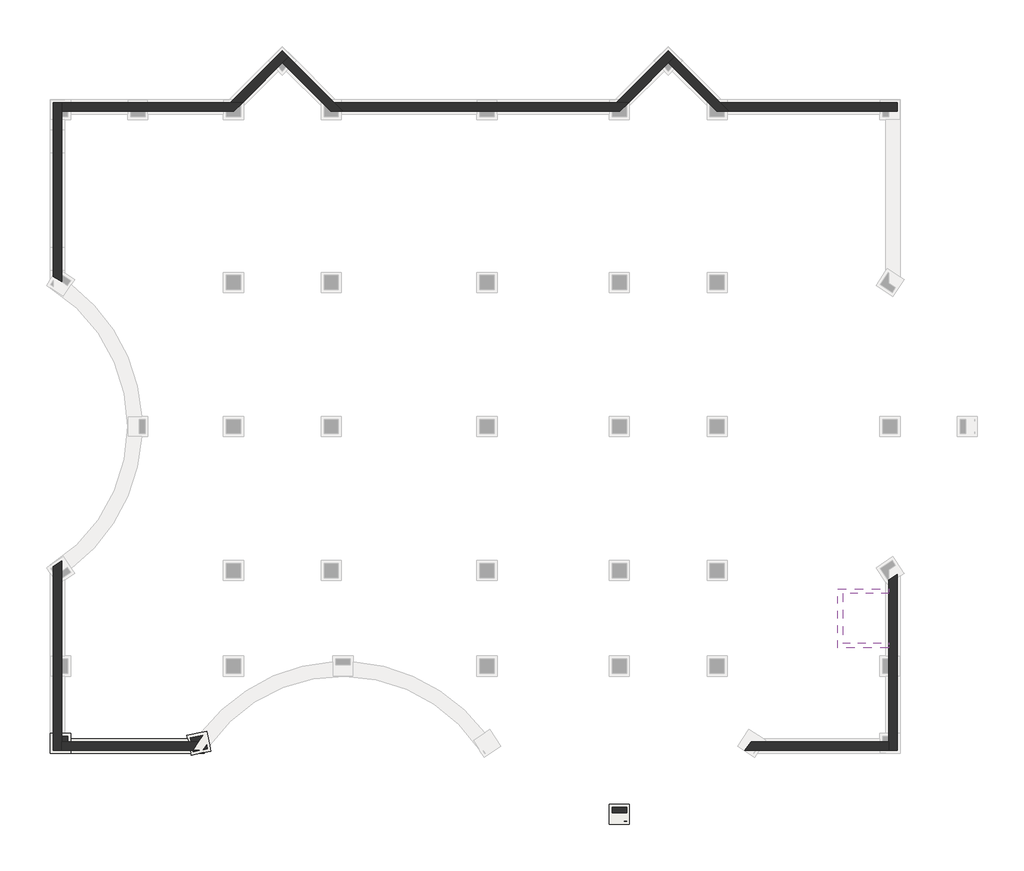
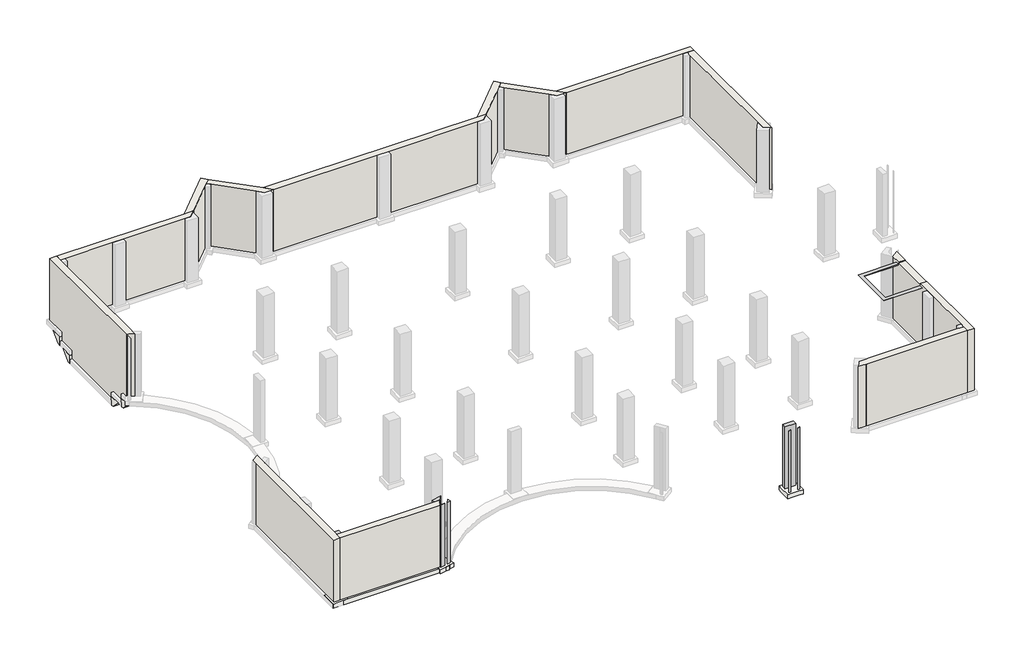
# One storey, part 1 of 3: 13 walls, 4 slabs, 3 columns, 1 footing, 1 proxy.
"""IFC4 building model written with IfcOpenShell, lengths in millimetres."""

from ifc_helpers import new_model, si_unit, point, frame, frame_2d, origin, place, context, project, spatial, polyline, circle_curve, trimmed, segment, composite_curve, outline, extrude, faceted_brep, transform, mapped, element, save
from ifc_brep_helpers import plane_surface, revolved_surface, advanced_brep
from components import west_stepped_footing_west_stepped_footing_b48c4903

model = new_model("IFC4")

# Units and contexts
model_context = context("Model", 3, world=origin())
ifc_project = project(units=[si_unit("LENGTHUNIT", "METRE", prefix="MILLI")], contexts=[model_context])

# Site, building, storey
site = spatial("IfcSite", under=ifc_project)
building = spatial("IfcBuilding", under=site)
storey = spatial("IfcBuildingStorey", under=building, Name="00 T.O.FOOTING", Elevation=-4572.0)

# Proxy
placement = place(None, origin())
element("IfcBuildingElementProxy", 1, Name="Mat Edge", ObjectType="Mat Edge", at=placement, inside=storey, context=model_context, shape_type="Brep", body=[
    faceted_brep([(43955.9050515, 5264.575, -200.0), (43955.9050515, 5464.575, -200.0), (43955.9050515, 5464.575, -150.0), (43955.9050515, 5214.575, -150.0), (41515.9050515, 5464.575, -200.0), (41515.9050515, 5464.575, -150.0), (41315.9050515, 5264.575, -200.0), (41265.9050515, 5214.575, -150.0), (41515.9050515, 8079.575, -200.0), (41515.9050515, 8079.575, -150.0), (41315.9050515, 8279.575, -200.0), (41265.9050515, 8329.575, -150.0), (43955.9050515, 8079.575, -200.0), (43955.9050515, 8279.575, -200.0), (43955.9050515, 8329.575, -150.0), (43955.9050515, 8079.575, -150.0)], [[[0, 1, 2, 3]], [[1, 4, 5, 2]], [[6, 0, 3, 7]], [[1, 0, 6, 4]], [[4, 8, 9, 5]], [[10, 6, 7, 11]], [[4, 6, 10, 8]], [[12, 13, 14, 15]], [[8, 12, 15, 9]], [[13, 10, 11, 14]], [[8, 10, 13, 12]], [[3, 2, 5, 9, 15, 14, 11, 7]]]),
])

# Columns
element("IfcColumn", 2, ObjectType="M_Concrete-Rectangular-Column : 762 x 762mm", at=placement, inside=storey, context=model_context, shape_type="SweptSolid", body=[
    extrude(outline(polyline([(228.5, 536.575), (536.575, 536.575), (536.575, 228.5), (228.5, 228.5), (228.5, 536.575)])), frame((0.0, 0.0, -4572.0), z_axis=(0.0, 0.0, 1.0), x_axis=(1.0, 0.0, 0.0)), (0.0, 0.0, 1.0), 4572.0),
])
element("IfcColumn", 3, ObjectType="M_Concrete-Rectangular-Column : 762 x 762mm", at=placement, inside=storey, context=model_context, shape_type="SweptSolid", body=[
    extrude(outline(composite_curve([segment(polyline([(30092.5468913, -3977.7548318), (30092.5465403, -3982.4534576), (29961.8550106, -3982.4436956)]), True, "CONTINUOUS"), segment(trimmed(circle_curve(frame_2d((29712.2025257, 4799.7966199)), 8785.7880309), [point((29961.8550106, -3982.4436956))], [point((30092.5468913, -3977.7548318))], True, "CARTESIAN"), True, "CONTINUOUS")], self_intersect=False)), frame((0.0, 0.0, -4572.0), z_axis=(0.0, 0.0, 1.0), x_axis=(1.0, 0.0, 0.0)), (0.0, 0.0, 1.0), 4572.0),
    extrude(outline(composite_curve([segment(polyline([(29330.6034597, -3220.3965424), (30092.6034576, -3220.4534597), (30092.5810606, -3520.3008695)]), True, "CONTINUOUS"), segment(trimmed(circle_curve(frame_2d((29712.2025257, 4799.7966199)), 8328.7880309), [point((30092.5810606, -3520.3008695))], [point((29330.5810627, -3520.2439522))], False, "CARTESIAN"), True, "CONTINUOUS"), segment(polyline([(29330.5810627, -3520.2439522), (29330.6034597, -3220.3965424)]), True, "CONTINUOUS")], self_intersect=False)), frame((0.0, 0.0, -4572.0), z_axis=(0.0, 0.0, 1.0), x_axis=(1.0, 0.0, 0.0)), (0.0, 0.0, 1.0), 4572.0),
    extrude(outline(composite_curve([segment(polyline([(29330.5465424, -3982.3965403), (29330.5468934, -3977.6979145)]), True, "CONTINUOUS"), segment(trimmed(circle_curve(frame_2d((29712.2025257, 4799.7966199)), 8785.7880309), [point((29330.5468934, -3977.6979145))], [point((29461.2380721, -3982.4063023))], True, "CARTESIAN"), True, "CONTINUOUS"), segment(polyline([(29461.2380721, -3982.4063023), (29330.5465424, -3982.3965403)]), True, "CONTINUOUS")], self_intersect=False)), frame((0.0, 0.0, -4572.0), z_axis=(0.0, 0.0, 1.0), x_axis=(1.0, 0.0, 0.0)), (0.0, 0.0, 1.0), 4572.0),
])
element("IfcColumn", 4, ObjectType="M_Concrete-Rectangular-Column : 762 x 762mm", at=placement, inside=storey, context=model_context, shape_type="SweptSolid", body=[
    extrude(outline(polyline([(7495.2019987, -228.5), (7175.4949163, -295.2572794), (7161.5554867, -228.5), (7495.2019987, -228.5)])), frame((0.0, 0.0, -4572.0), z_axis=(0.0, 0.0, 1.0), x_axis=(1.0, 0.0, 0.0)), (0.0, 0.0, 1.0), 4572.0),
    extrude(outline(composite_curve([segment(polyline([(7019.7427206, 450.6550837), (7686.4160603, 589.8615664)]), True, "CONTINUOUS"), segment(trimmed(circle_curve(frame_2d((15090.775, -4898.9611805)), 9216.925), [point((7686.4160603, 589.8615664))], [point((7431.7379654, 228.5))], True, "CARTESIAN"), True, "CONTINUOUS"), segment(polyline([(7431.7379654, 228.5), (7066.130398, 228.5), (7019.7427206, 450.6550837)]), True, "CONTINUOUS")], self_intersect=False)), frame((0.0, 0.0, -4572.0), z_axis=(0.0, 0.0, 1.0), x_axis=(1.0, 0.0, 0.0)), (0.0, 0.0, 1.0), 4572.0),
    extrude(outline(composite_curve([segment(polyline([(7877.3918187, 71.2892242), (7921.4072794, -139.5050837), (7707.946534, -184.0773169)]), True, "CONTINUOUS"), segment(trimmed(circle_curve(frame_2d((15090.775, -4898.9611805)), 8759.925), [point((7707.946534, -184.0773169))], [point((7877.3918187, 71.2892242))], False, "CARTESIAN"), True, "CONTINUOUS")], self_intersect=False)), frame((0.0, 0.0, -4572.0), z_axis=(0.0, 0.0, 1.0), x_axis=(1.0, 0.0, 0.0)), (0.0, 0.0, 1.0), 4572.0),
])

# Footing
element("IfcFooting", 5, ObjectType="Bearing Footing - 762 x 305", at=placement, inside=storey, context=model_context, shape_type="SweptSolid", body=[
    extrude(outline(polyline([(381.0, -381.0), (381.0, -377.925), (689.075, -377.925), (689.075, 381.0), (6878.4981549, 381.0), (7037.609572, -381.0), (381.0, -381.0)])), frame((0.0, 0.0, -4877.0), z_axis=(0.0, 0.0, 1.0), x_axis=(1.0, 0.0, 0.0)), (0.0, 0.0, 1.0), 305.0),
    extrude(outline(polyline([(7738.5947592, -333.4668124), (7764.398549, -381.0), (7510.9537164, -381.0), (7738.5947592, -333.4668124)])), frame((0.0, 0.0, -4877.0), z_axis=(0.0, 0.0, 1.0), x_axis=(1.0, 0.0, 0.0)), (0.0, 0.0, 1.0), 305.0),
])

# Slabs
element("IfcSlab", 6, ObjectType="M_Footing-Rectangular : 1067 x 1067 x 305mm", at=placement, inside=storey, context=model_context, shape_type="Brep", body=[
    faceted_brep([(689.075, 689.075, -4572.0), (381.0, 689.075, -4572.0), (-377.925, 689.075, -4572.0), (-377.925, -377.925, -4572.0), (381.0, -377.925, -4572.0), (689.075, -377.925, -4572.0), (689.075, 381.0, -4572.0), (689.075, 689.075, -4877.0), (689.075, 381.0, -4877.0), (689.075, -377.925, -4877.0), (381.0, -377.925, -4877.0), (-377.925, -377.925, -4877.0), (-377.925, 689.075, -4877.0), (381.0, 689.075, -4877.0)], [[[0, 1, 2, 3, 4, 5, 6]], [[7, 8, 9, 10, 11, 12, 13]], [[2, 1, 0, 7, 13, 12]], [[3, 2, 12, 11]], [[5, 4, 3, 11, 10, 9]], [[0, 6, 5, 9, 8, 7]]]),
])
element("IfcSlab", 7, ObjectType="M_Footing-Rectangular : 1067 x 1067 x 305mm", at=placement, inside=storey, context=model_context, shape_type="Brep", body=[
    faceted_brep([(29178.0351519, -4134.885149, -4572.0), (29459.0632155, -4134.9061402, -4572.0), (29964.0070854, -4134.9438568, -4572.0), (30245.035149, -4134.9648481, -4572.0), (30245.0360729, -4122.5955108, -4572.0), (30245.0931013, -3359.107326, -4572.0), (30245.1148481, -3067.964851, -4572.0), (29178.114851, -3067.8851519, -4572.0), (29178.0931043, -3359.0276268, -4572.0), (29178.0360759, -4122.5158116, -4572.0), (29178.0351519, -4134.885149, -4877.0), (29178.0360759, -4122.5158116, -4877.0), (29178.0931043, -3359.0276268, -4877.0), (29178.114851, -3067.8851519, -4877.0), (30245.1148481, -3067.964851, -4877.0), (30245.0931013, -3359.107326, -4877.0), (30245.0360729, -4122.5955108, -4877.0), (30245.035149, -4134.9648481, -4877.0), (29964.0070854, -4134.9438568, -4877.0), (29459.0632155, -4134.9061402, -4877.0)], [[[0, 1, 2, 3, 4, 5, 6, 7, 8, 9]], [[10, 11, 12, 13, 14, 15, 16, 17, 18, 19]], [[3, 2, 1, 0, 10, 19, 18, 17]], [[6, 5, 4, 3, 17, 16, 15, 14]], [[7, 6, 14, 13]], [[0, 9, 8, 7, 13, 12, 11, 10]]]),
])
element("IfcSlab", 8, ObjectType="M_Footing-Rectangular : 1067 x 1067 x 305mm", at=placement, inside=storey, context=model_context, shape_type="Brep", body=[
    faceted_brep([(6839.2914801, 568.7645661, -4572.0), (6878.4981549, 381.0, -4572.0), (7037.609572, -381.0, -4572.0), (7057.3854339, -475.7085199, -4572.0), (7510.9537164, -381.0, -4572.0), (7738.5947592, -333.4668124, -4572.0), (7802.2589542, -320.1732425, -4572.0), (8101.8585199, -257.6145661, -4572.0), (8040.0893954, 38.2037586, -4572.0), (7883.7645661, 786.8585199, -4572.0), (7598.7213809, 727.3393268, -4572.0), (6839.2914801, 568.7645661, -4877.0), (7598.7213809, 727.3393268, -4877.0), (7883.7645661, 786.8585199, -4877.0), (8040.0893954, 38.2037586, -4877.0), (8101.8585199, -257.6145661, -4877.0), (7802.2589542, -320.1732425, -4877.0), (7738.5947592, -333.4668124, -4877.0), (7510.9537164, -381.0, -4877.0), (7057.3854339, -475.7085199, -4877.0), (7037.609572, -381.0, -4877.0), (6878.4981549, 381.0, -4877.0)], [[[0, 1, 2, 3, 4, 5, 6, 7, 8, 9, 10]], [[11, 12, 13, 14, 15, 16, 17, 18, 19, 20, 21]], [[3, 2, 1, 0, 11, 21, 20, 19]], [[7, 6, 5, 4, 3, 19, 18, 17, 16, 15]], [[9, 8, 7, 15, 14, 13]], [[0, 10, 9, 13, 12, 11]]]),
])
west_stepped_footing_west_stepped_footing_shape = west_stepped_footing_west_stepped_footing_b48c4903(model_context)
element("IfcSlab", 9, ObjectType="West Stepped Footing : West Stepped Footing", at=placement, inside=storey, context=model_context, shape_type="MappedRepresentation", body=[
    mapped(west_stepped_footing_west_stepped_footing_shape, transform((0.0, 0.0, 0.0), x_axis=(1.0, 0.0, 0.0), y_axis=(0.0, 1.0, 0.0), z_axis=(0.0, 0.0, 1.0))),
])

# Walls
element("IfcWall", 10, ObjectType="Foundation - 457mm Concrete", at=placement, inside=storey, context=model_context, shape_type="AdvancedBrep", body=[
    advanced_brep(
    [(228.5, -228.5, -4572.0), (228.5, 228.5, -4572.0), (228.5, 536.575, -4572.0), (228.5, 3863.575, -4572.0), (228.5, 4625.575, -4572.0), (228.5, 8890.7479726, -4572.0), (228.5, 9260.5379654, -4572.0), (228.5, 9817.0805193, -4572.0), (228.5, 9817.0805193, 0.0), (228.5, 9260.5379654, 0.0), (228.5, 8890.7479726, 0.0), (228.5, 4625.575, 0.0), (228.5, 3863.575, 0.0), (228.5, 536.575, 0.0), (228.5, 228.5, 0.0), (228.5, -228.5, 0.0), (-228.5, -228.5, -4572.0), (-228.5, -228.5, 0.0), (-228.5, 9189.3349146, 0.0), (-228.5, 9502.0084667, 0.0), (-228.5, 9508.5643829, 0.0), (-228.5, 9508.5643829, -4572.0), (-228.5, 9502.0084667, -4572.0), (-228.5, 9189.3349146, -4572.0)],
    [
        (0, 1),
        (1, 2),
        (2, 3),
        (3, 4),
        (4, 5),
        (5, 6),
        (6, 7),
        (7, 8),
        (8, 9),
        (9, 10),
        (10, 11),
        (11, 12),
        (12, 13),
        (13, 14),
        (14, 15),
        (15, 0),
        (16, 17),
        (17, 18),
        (18, 19),
        (19, 20),
        (20, 21),
        (21, 22),
        (22, 23),
        (23, 16),
        (0, 16),
        (21, 7, circle_curve(frame((-4898.9611805, 16919.575, -4572.0), z_axis=(0.0, 0.0, 1.0), x_axis=(1.0, 0.0, 0.0)), 8759.925)),
        (8, 20, circle_curve(frame((-4898.9611805, 16919.575, 0.0), z_axis=(0.0, 0.0, -1.0), x_axis=(1.0, 0.0, 0.0)), 8759.925)),
        (17, 15),
    ],
    [
        plane_surface(frame((228.5, 0.0, -4572.0), z_axis=(1.0, 0.0, 0.0), x_axis=(0.0, 1.0, 0.0))),
        plane_surface(frame((-228.5, 0.0, -4572.0), z_axis=(-1.0, 0.0, 0.0), x_axis=(0.0, -1.0, 0.0))),
        plane_surface(frame((228.5, 0.0, -4572.0), z_axis=(0.0, 0.0, -1.0), x_axis=(-1.0, 0.0, 0.0))),
        plane_surface(frame((228.5, 9383.5307238, 0.0), z_axis=(0.0, 0.0, 1.0), x_axis=(-1.0, 0.0, 0.0))),
        revolved_surface(polyline([(3860.963819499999, 16919.575, -4572.0), (3860.963819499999, 16919.575, 0.0)]), (-4898.9611805, 16919.575, -4572.0), (0.0, 0.0, -1.0)),
        plane_surface(frame((7554.7307238, -228.5, -4572.0), z_axis=(0.0, -1.0, 0.0), x_axis=(1.0, 0.0, 0.0))),
    ],
    [
        (0, [[1, 2, 3, 4, 5, 6, 7, 8, 9, 10, 11, 12, 13, 14, 15, 16]]),
        (1, [[17, 18, 19, 20, 21, 22, 23, 24]]),
        (2, [[-7, -6, -5, -4, -3, -2, -1, 25, -24, -23, -22, 26]]),
        (3, [[-15, -14, -13, -12, -11, -10, -9, 27, -20, -19, -18, 28]]),
        (4, [[-8, -26, -21, -27]]),
        (5, [[-16, -28, -17, -25]]),
    ],
),
])
element("IfcWall", 11, ObjectType="Foundation - 457mm Concrete", at=placement, inside=storey, context=model_context, shape_type="AdvancedBrep", body=[
    advanced_brep(
    [(228.5, 24578.6120346, -4572.0), (228.5, 24948.4020274, -4572.0), (228.5, 25169.9586136, -4572.0), (228.5, 25169.9586136, -5182.0), (228.5, 26388.9586136, -5182.0), (228.5, 26388.9586136, -5792.0), (228.5, 31401.15, -5792.0), (228.5, 31401.15, -5182.0), (228.5, 32620.15, -5182.0), (228.5, 32620.15, -4572.0), (228.5, 33302.575, -4572.0), (228.5, 33610.65, -4572.0), (228.5, 34067.65, -4572.0), (228.5, 34067.65, 0.0), (228.5, 33610.65, 0.0), (228.5, 33302.575, 0.0), (228.5, 24948.4020274, 0.0), (228.5, 24578.6120346, 0.0), (-228.5, 24865.5487488, -4572.0), (-228.5, 24865.5487488, 0.0), (-228.5, 34067.65, 0.0), (-228.5, 34067.65, -4572.0), (-228.5, 32620.15, -4572.0), (-228.5, 32620.15, -5182.0), (-228.5, 31401.15, -5182.0), (-228.5, 31401.15, -5792.0), (-228.5, 26388.9586136, -5792.0), (-228.5, 26388.9586136, -5182.0), (-228.5, 25169.9586136, -5182.0), (-228.5, 25169.9586136, -4572.0)],
    [
        (0, 1),
        (1, 2),
        (2, 3),
        (3, 4),
        (4, 5),
        (5, 6),
        (6, 7),
        (7, 8),
        (8, 9),
        (9, 10),
        (10, 11),
        (11, 12),
        (12, 13),
        (13, 14),
        (14, 15),
        (15, 16),
        (16, 17),
        (17, 0),
        (18, 19),
        (19, 20),
        (20, 21),
        (21, 22),
        (22, 23),
        (23, 24),
        (24, 25),
        (25, 26),
        (26, 27),
        (27, 28),
        (28, 29),
        (29, 18),
        (17, 19, circle_curve(frame((-4898.9611805, 16919.575, 0.0), z_axis=(0.0, 0.0, 1.0), x_axis=(1.0, 0.0, 0.0)), 9216.925)),
        (18, 0, circle_curve(frame((-4898.9611805, 16919.575, -4572.0), z_axis=(0.0, 0.0, -1.0), x_axis=(1.0, 0.0, 0.0)), 9216.925)),
        (12, 21),
        (20, 13),
        (9, 22),
        (29, 2),
        (28, 3),
        (27, 4),
        (26, 5),
        (25, 6),
        (24, 7),
        (23, 8),
    ],
    [
        plane_surface(frame((228.5, 33334.4893374, -4572.0), z_axis=(1.0, 0.0, 0.0), x_axis=(0.0, 1.0, 0.0))),
        plane_surface(frame((-228.5, 33334.4893374, -4572.0), z_axis=(-1.0, 0.0, 0.0), x_axis=(0.0, -1.0, 0.0))),
        revolved_surface(polyline([(4317.963819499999, 16919.575, 0.0), (4317.963819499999, 16919.575, -4572.0)]), (-4898.9611805, 16919.575, -4572.0), (0.0, 0.0, 1.0)),
        plane_surface(frame((0.0, 34067.65, -4572.0), z_axis=(0.0, 1.0, 0.0), x_axis=(-1.0, 0.0, 0.0))),
        plane_surface(frame((228.5, 32620.15, -4572.0), z_axis=(0.0, 0.0, -1.0), x_axis=(-1.0, 0.0, 0.0))),
        plane_surface(frame((228.5, 33839.15, 0.0), z_axis=(0.0, 0.0, 1.0), x_axis=(-1.0, 0.0, 0.0))),
        plane_surface(frame((228.5, 24455.6192762, -4572.0), z_axis=(0.0, 0.0, -1.0), x_axis=(-1.0, 0.0, 0.0))),
        plane_surface(frame((228.5, 25169.9586136, -4572.0), z_axis=(0.0, -1.0, 0.0), x_axis=(-1.0, 0.0, 0.0))),
        plane_surface(frame((228.5, 25169.9586136, -5182.0), z_axis=(0.0, 0.0, -1.0), x_axis=(-1.0, 0.0, 0.0))),
        plane_surface(frame((228.5, 26388.9586136, -5182.0), z_axis=(0.0, -1.0, 0.0), x_axis=(-1.0, 0.0, 0.0))),
        plane_surface(frame((228.5, 26388.9586136, -5792.0), z_axis=(0.0, 0.0, -1.0), x_axis=(-1.0, 0.0, 0.0))),
        plane_surface(frame((228.5, 31401.15, -5792.0), z_axis=(0.0, 1.0, 0.0), x_axis=(-1.0, 0.0, 0.0))),
        plane_surface(frame((228.5, 31401.15, -5182.0), z_axis=(0.0, 0.0, -1.0), x_axis=(-1.0, 0.0, 0.0))),
        plane_surface(frame((228.5, 32620.15, -5182.0), z_axis=(0.0, 1.0, 0.0), x_axis=(-1.0, 0.0, 0.0))),
    ],
    [
        (0, [[1, 2, 3, 4, 5, 6, 7, 8, 9, 10, 11, 12, 13, 14, 15, 16, 17, 18]]),
        (1, [[19, 20, 21, 22, 23, 24, 25, 26, 27, 28, 29, 30]]),
        (2, [[-18, 31, -19, 32]]),
        (3, [[-13, 33, -21, 34]]),
        (4, [[-12, -11, -10, 35, -22, -33]]),
        (5, [[-17, -16, -15, -14, -34, -20, -31]]),
        (6, [[-2, -1, -32, -30, 36]]),
        (7, [[-3, -36, -29, 37]]),
        (8, [[-4, -37, -28, 38]]),
        (9, [[-5, -38, -27, 39]]),
        (10, [[-6, -39, -26, 40]]),
        (11, [[-7, -40, -25, 41]]),
        (12, [[-8, -41, -24, 42]]),
        (13, [[-9, -42, -23, -35]]),
    ],
),
])
element("IfcWall", 12, ObjectType="Foundation - 457mm Concrete", at=placement, inside=storey, context=model_context, shape_type="Brep", body=[
    faceted_brep([(228.5, 33610.65, -4572.0), (536.575, 33610.65, -4572.0), (3863.575, 33610.65, -4572.0), (4625.575, 33610.65, -4572.0), (8918.575, 33610.65, -4572.0), (9329.781524, 33610.65, -4572.0), (9329.781524, 33610.65, 0.0), (8918.575, 33610.65, 0.0), (4625.575, 33610.65, 0.0), (3863.575, 33610.65, 0.0), (536.575, 33610.65, 0.0), (228.5, 33610.65, 0.0), (228.5, 34067.65, -4572.0), (228.5, 34067.65, 0.0), (9140.485926, 34067.65, 0.0), (9786.781524, 34067.65, 0.0), (9786.781524, 34067.65, -4572.0), (9140.485926, 34067.65, -4572.0), (9680.575, 33961.443476, -4572.0), (9680.575, 33961.443476, 0.0)], [[[0, 1, 2, 3, 4, 5, 6, 7, 8, 9, 10, 11]], [[12, 13, 14, 15, 16, 17]], [[5, 4, 3, 2, 1, 0, 12, 17, 16, 18]], [[11, 10, 9, 8, 7, 6, 19, 15, 14, 13]], [[0, 11, 13, 12]], [[6, 5, 18, 16, 15, 19]]]),
])
element("IfcWall", 13, ObjectType="Foundation - 457mm Concrete", at=placement, inside=storey, context=model_context, shape_type="Brep", body=[
    faceted_brep([(9786.781524, 34067.65, -4572.0), (11667.7330784, 35948.6015543, -4572.0), (11885.8887629, 36166.7572388, -4572.0), (12209.0365619, 36489.9050378, -4572.0), (12209.0365619, 36489.9050378, 0.0), (11885.8887629, 36166.7572388, 0.0), (11667.7330784, 35948.6015543, 0.0), (9786.781524, 34067.65, 0.0), (9140.485926, 34067.65, -4572.0), (9140.485926, 34067.65, 0.0), (11885.8887629, 36813.0528368, 0.0), (11885.8887629, 36813.0528368, -4572.0)], [[[0, 1, 2, 3, 4, 5, 6, 7]], [[8, 9, 10, 11]], [[3, 2, 1, 0, 8, 11]], [[7, 6, 5, 4, 10, 9]], [[0, 7, 9, 8]], [[4, 3, 11, 10]]]),
])
element("IfcWall", 14, ObjectType="Foundation - 457mm Concrete", at=placement, inside=storey, context=model_context, shape_type="Brep", body=[
    faceted_brep([(11885.8887629, 36166.7572388, -4572.0), (12103.7306845, 35948.9153172, -4572.0), (14090.575, 33962.0710017, -4572.0), (14441.9960017, 33610.65, -4572.0), (14441.9960017, 33610.65, 0.0), (14090.575, 33962.0710017, 0.0), (12103.7306845, 35948.9153172, 0.0), (11885.8887629, 36166.7572388, 0.0), (12209.0365619, 36489.9050378, -4572.0), (12209.0365619, 36489.9050378, 0.0), (14631.2915997, 34067.65, 0.0), (15088.2915997, 33610.65, 0.0), (15088.2915997, 33610.65, -4572.0), (14631.2915997, 34067.65, -4572.0), (14852.575, 33610.65, -4572.0), (14852.575, 33610.65, 0.0)], [[[0, 1, 2, 3, 4, 5, 6, 7]], [[8, 9, 10, 11, 12, 13]], [[3, 2, 1, 0, 8, 13, 12, 14]], [[7, 6, 5, 4, 15, 11, 10, 9]], [[0, 7, 9, 8]], [[4, 3, 14, 12, 11, 15]]]),
])
element("IfcWall", 15, ObjectType="Foundation - 457mm Concrete", at=placement, inside=storey, context=model_context, shape_type="Brep", body=[
    faceted_brep([(15088.2915997, 33610.65, -4572.0), (22329.575, 33610.65, -4572.0), (23091.575, 33610.65, -4572.0), (29330.575, 33610.65, -4572.0), (29742.4090498, 33610.65, -4572.0), (29742.4090498, 33610.65, 0.0), (29330.575, 33610.65, 0.0), (23091.575, 33610.65, 0.0), (22329.575, 33610.65, 0.0), (15088.2915997, 33610.65, 0.0), (14631.2915997, 34067.65, -4572.0), (14631.2915997, 34067.65, 0.0), (29553.1134518, 34067.65, 0.0), (30199.4090498, 34067.65, 0.0), (30199.4090498, 34067.65, -4572.0), (29553.1134518, 34067.65, -4572.0), (30092.575, 33960.8159502, -4572.0), (30092.575, 33960.8159502, 0.0)], [[[0, 1, 2, 3, 4, 5, 6, 7, 8, 9]], [[10, 11, 12, 13, 14, 15]], [[4, 3, 2, 1, 0, 10, 15, 14, 16]], [[9, 8, 7, 6, 5, 17, 13, 12, 11]], [[0, 9, 11, 10]], [[5, 4, 16, 14, 13, 17]]]),
])
element("IfcWall", 16, ObjectType="Foundation - 457mm Concrete", at=placement, inside=storey, context=model_context, shape_type="Brep", body=[
    faceted_brep([(30199.4090498, 34067.65, -4572.0), (32080.0468413, 35948.2877915, -4572.0), (32298.5162886, 36166.7572388, -4572.0), (32621.6640876, 36489.9050378, -4572.0), (32621.6640876, 36489.9050378, 0.0), (32298.5162886, 36166.7572388, 0.0), (32080.0468413, 35948.2877915, 0.0), (30199.4090498, 34067.65, 0.0), (29553.1134518, 34067.65, -4572.0), (29553.1134518, 34067.65, 0.0), (32298.5162886, 36813.0528368, 0.0), (32298.5162886, 36813.0528368, -4572.0)], [[[0, 1, 2, 3, 4, 5, 6, 7]], [[8, 9, 10, 11]], [[3, 2, 1, 0, 8, 11]], [[7, 6, 5, 4, 10, 9]], [[0, 7, 9, 8]], [[4, 3, 11, 10]]]),
])
element("IfcWall", 17, ObjectType="Foundation - 457mm Concrete", at=placement, inside=storey, context=model_context, shape_type="Brep", body=[
    faceted_brep([(32298.5162886, 36166.7572388, -4572.0), (32516.0444474, 35949.2290801, -4572.0), (34502.575, 33962.6985274, -4572.0), (34854.6235274, 33610.65, -4572.0), (34854.6235274, 33610.65, 0.0), (34502.575, 33962.6985274, 0.0), (32516.0444474, 35949.2290801, 0.0), (32298.5162886, 36166.7572388, 0.0), (32621.6640876, 36489.9050378, -4572.0), (32621.6640876, 36489.9050378, 0.0), (35043.9191254, 34067.65, 0.0), (35500.9191254, 33610.65, 0.0), (35500.9191254, 33610.65, -4572.0), (35043.9191254, 34067.65, -4572.0), (35264.575, 33610.65, -4572.0), (35264.575, 33610.65, 0.0)], [[[0, 1, 2, 3, 4, 5, 6, 7]], [[8, 9, 10, 11, 12, 13]], [[3, 2, 1, 0, 8, 13, 12, 14]], [[7, 6, 5, 4, 15, 11, 10, 9]], [[0, 7, 9, 8]], [[4, 3, 14, 12, 11, 15]]]),
])
element("IfcWall", 18, ObjectType="Foundation - 457mm Concrete", at=placement, inside=storey, context=model_context, shape_type="Brep", body=[
    faceted_brep([(35500.9191254, 33610.65, -4572.0), (43646.575, 33610.65, -4572.0), (43955.9050515, 33610.65, -4572.0), (44412.9050515, 33610.65, -4572.0), (44412.9050515, 33610.65, 0.0), (43955.9050515, 33610.65, 0.0), (43646.575, 33610.65, 0.0), (35500.9191254, 33610.65, 0.0), (35043.9191254, 34067.65, -4572.0), (35043.9191254, 34067.65, 0.0), (44412.9050515, 34067.65, 0.0), (44412.9050515, 34067.65, -4572.0)], [[[0, 1, 2, 3, 4, 5, 6, 7]], [[8, 9, 10, 11]], [[3, 2, 1, 0, 8, 11]], [[7, 6, 5, 4, 10, 9]], [[0, 7, 9, 8]], [[4, 3, 11, 10]]]),
])
element("IfcWall", 19, ObjectType="Foundation - 457mm Concrete", at=placement, inside=storey, context=model_context, shape_type="AdvancedBrep", body=[
    advanced_brep(
    [(43955.9050515, 33610.65, -4572.0), (43955.9050515, 33302.575, -4572.0), (43955.9050515, 25044.2689764, -4572.0), (43955.9050515, 24500.3369473, -4572.0), (43955.9050515, 24500.3369473, 0.0), (43955.9050515, 25044.2689764, 0.0), (43955.9050515, 33302.575, 0.0), (43955.9050515, 33610.65, 0.0), (44412.9050515, 33610.65, -4572.0), (44412.9050515, 33610.65, 0.0), (44412.9050515, 24742.9835687, 0.0), (44412.9050515, 24179.4586136, 0.0), (44412.9050515, 24179.4586136, -4572.0), (44412.9050515, 24742.9835687, -4572.0), (44300.7410299, 24262.146678, -4572.0), (44300.7410299, 24262.146678, 0.0)],
    [
        (0, 1),
        (1, 2),
        (2, 3),
        (3, 4),
        (4, 5),
        (5, 6),
        (6, 7),
        (7, 0),
        (8, 9),
        (9, 10),
        (10, 11),
        (11, 12),
        (12, 13),
        (13, 8),
        (0, 8),
        (12, 14, circle_curve(frame((38974.293871, 16919.575, -4572.0), z_axis=(0.0, 0.0, 1.0), x_axis=(1.0, 0.0, 0.0)), 9071.075)),
        (14, 3, circle_curve(frame((38974.293871, 16919.575, -4572.0), z_axis=(0.0, 0.0, 1.0), x_axis=(1.0, 0.0, 0.0)), 9071.0748086)),
        (4, 15, circle_curve(frame((38974.293871, 16919.575, 0.0), z_axis=(0.0, 0.0, -1.0), x_axis=(1.0, 0.0, 0.0)), 9071.075)),
        (15, 11, circle_curve(frame((38974.293871, 16919.575, 0.0), z_axis=(0.0, 0.0, -1.0), x_axis=(1.0, 0.0, 0.0)), 9071.0748086)),
        (9, 7),
    ],
    [
        plane_surface(frame((43955.9050515, 33839.15, -4572.0), z_axis=(-1.0, 0.0, 0.0), x_axis=(0.0, -1.0, 0.0))),
        plane_surface(frame((44412.9050515, 33839.15, -4572.0), z_axis=(1.0, 0.0, 0.0), x_axis=(0.0, 1.0, 0.0))),
        plane_surface(frame((43955.9050515, 33839.15, -4572.0), z_axis=(0.0, 0.0, -1.0), x_axis=(1.0, 0.0, 0.0))),
        plane_surface(frame((43955.9050515, 24622.6157416, 0.0), z_axis=(0.0, 0.0, 1.0), x_axis=(1.0, 0.0, 0.0))),
        plane_surface(frame((34949.2713264, 33610.65, -4572.0), z_axis=(0.0, 1.0, 0.0), x_axis=(1.0, 0.0, 0.0))),
        revolved_surface(polyline([(48045.368871, 16919.575, -4572.0), (48045.368871, 16919.575, 0.0)]), (38974.293871, 16919.575, -4572.0), (0.0, 0.0, -1.0)),
    ],
    [
        (0, [[1, 2, 3, 4, 5, 6, 7, 8]]),
        (1, [[9, 10, 11, 12, 13, 14]]),
        (2, [[-3, -2, -1, 15, -14, -13, 16, 17]]),
        (3, [[-7, -6, -5, 18, 19, -11, -10, 20]]),
        (4, [[-8, -20, -9, -15]]),
        (5, [[-4, -17, -16, -12, -19, -18]]),
    ],
),
])
element("IfcWall", 20, ObjectType="Foundation - 457mm Concrete", at=placement, inside=storey, context=model_context, shape_type="AdvancedBrep", body=[
    advanced_brep(
    [(43955.9050515, 8797.5208724, -4572.0), (43955.9050515, 8794.8810236, -4572.0), (43955.9050515, 4625.575, -4572.0), (43955.9050515, 3863.575, -4572.0), (43955.9050515, 536.575, -4572.0), (43955.9050515, 228.5, -4572.0), (43955.9050515, -228.5, -4572.0), (43955.9050515, -228.5, 0.0), (43955.9050515, 228.5, 0.0), (43955.9050515, 536.575, 0.0), (43955.9050515, 3863.575, 0.0), (43955.9050515, 4625.575, 0.0), (43955.9050515, 5464.575, 0.0), (43955.9050515, 5464.575, -50.0), (43955.9050515, 8079.575, -50.0), (43955.9050515, 8079.575, 0.0), (43955.9050515, 8794.8810236, 0.0), (43955.9050515, 8797.5208724, 0.0), (44412.9050515, -228.5, -4572.0), (44412.9050515, 9096.1664313, -4572.0), (44412.9050515, 9096.1664313, 0.0), (44412.9050515, 8079.575, 0.0), (44412.9050515, 8079.575, -50.0), (44412.9050515, 5464.575, -50.0), (44412.9050515, 5464.575, 0.0), (44412.9050515, -228.5, 0.0)],
    [
        (0, 1),
        (1, 2),
        (2, 3),
        (3, 4),
        (4, 5),
        (5, 6),
        (6, 7),
        (7, 8),
        (8, 9),
        (9, 10),
        (10, 11),
        (11, 12),
        (12, 13),
        (13, 14),
        (14, 15),
        (15, 16),
        (16, 17),
        (17, 0),
        (18, 19),
        (19, 20),
        (20, 21),
        (21, 22),
        (22, 23),
        (23, 24),
        (24, 25),
        (25, 18),
        (0, 19, circle_curve(frame((38974.293871, 16919.575, -4572.0), z_axis=(0.0, 0.0, 1.0), x_axis=(1.0, 0.0, 0.0)), 9528.075)),
        (18, 6),
        (20, 17, circle_curve(frame((38974.293871, 16919.575, 0.0), z_axis=(0.0, 0.0, -1.0), x_axis=(1.0, 0.0, 0.0)), 9528.075)),
        (15, 21),
        (7, 25),
        (24, 12),
        (22, 14),
        (13, 23),
    ],
    [
        plane_surface(frame((43955.9050515, 9216.5342584, -4572.0), z_axis=(-1.0, 0.0, 0.0), x_axis=(0.0, -1.0, 0.0))),
        plane_surface(frame((44412.9050515, 9216.5342584, -4572.0), z_axis=(1.0, 0.0, 0.0), x_axis=(0.0, 1.0, 0.0))),
        plane_surface(frame((43955.9050515, 9216.5342584, -4572.0), z_axis=(0.0, 0.0, -1.0), x_axis=(1.0, 0.0, 0.0))),
        plane_surface(frame((43955.9050515, 0.0, 0.0), z_axis=(0.0, 0.0, 1.0), x_axis=(1.0, 0.0, 0.0))),
        revolved_surface(polyline([(48502.368871, 16919.575, 0.0), (48502.368871, 16919.575, -4572.0)]), (38974.293871, 16919.575, -4572.0), (0.0, 0.0, 1.0)),
        plane_surface(frame((44184.4050515, -228.5, -4572.0), z_axis=(0.0, -1.0, 0.0), x_axis=(1.0, 0.0, 0.0))),
        plane_surface(frame((44412.9050515, 8079.575, -50.0), z_axis=(0.0, 0.0, 1.0), x_axis=(0.0, -1.0, 0.0))),
        plane_surface(frame((44412.9050515, 8079.575, 50.0), z_axis=(0.0, -1.0, 0.0), x_axis=(0.0, 0.0, -1.0))),
        plane_surface(frame((43955.9050515, 5464.575, 50.0), z_axis=(0.0, 1.0, 0.0), x_axis=(0.0, 0.0, -1.0))),
    ],
    [
        (0, [[1, 2, 3, 4, 5, 6, 7, 8, 9, 10, 11, 12, 13, 14, 15, 16, 17, 18]]),
        (1, [[19, 20, 21, 22, 23, 24, 25, 26]]),
        (2, [[-6, -5, -4, -3, -2, -1, 27, -19, 28]]),
        (3, [[29, -17, -16, 30, -21]]),
        (3, [[31, -25, 32, -12, -11, -10, -9, -8]]),
        (4, [[-18, -29, -20, -27]]),
        (5, [[-7, -28, -26, -31]]),
        (6, [[33, -14, 34, -23]]),
        (7, [[-33, -22, -30, -15]]),
        (8, [[-34, -13, -32, -24]]),
    ],
),
])
element("IfcWall", 21, ObjectType="Foundation - 457mm Concrete", at=placement, inside=storey, context=model_context, shape_type="AdvancedBrep", body=[
    advanced_brep(
    [(43955.9050515, 228.5, -4572.0), (43646.575, 228.5, -4572.0), (37222.0689069, 228.5, -4572.0), (36674.383023, 228.5, -4572.0), (36674.383023, 228.5, 0.0), (37222.0689069, 228.5, 0.0), (43646.575, 228.5, 0.0), (43955.9050515, 228.5, 0.0), (43955.9050515, -228.5, -4572.0), (43955.9050515, -228.5, 0.0), (36919.0568544, -228.5, 0.0), (36916.8055284, -228.5, 0.0), (36351.8518512, -228.5, 0.0), (36351.8518512, -228.5, -4572.0), (36916.8055284, -228.5, -4572.0), (36919.0568544, -228.5, -4572.0), (36435.9513542, -115.4762777, -4572.0), (36435.9513542, -115.4762777, 0.0)],
    [
        (0, 1),
        (1, 2),
        (2, 3),
        (3, 4),
        (4, 5),
        (5, 6),
        (6, 7),
        (7, 0),
        (8, 9),
        (9, 10),
        (10, 11),
        (11, 12),
        (12, 13),
        (13, 14),
        (14, 15),
        (15, 8),
        (0, 8),
        (13, 16, circle_curve(frame((29712.2025257, 4799.7966199, -4572.0), z_axis=(0.0, 0.0, 1.0), x_axis=(1.0, 0.0, 0.0)), 8328.7880309)),
        (16, 3, circle_curve(frame((29712.2025257, 4799.7966199, -4572.0), z_axis=(0.0, 0.0, 1.0), x_axis=(1.0, 0.0, 0.0)), 8328.7877849)),
        (4, 17, circle_curve(frame((29712.2025257, 4799.7966199, 0.0), z_axis=(0.0, 0.0, -1.0), x_axis=(1.0, 0.0, 0.0)), 8328.7880309)),
        (17, 12, circle_curve(frame((29712.2025257, 4799.7966199, 0.0), z_axis=(0.0, 0.0, -1.0), x_axis=(1.0, 0.0, 0.0)), 8328.7877849)),
        (9, 7),
    ],
    [
        plane_surface(frame((44184.4050515, 228.5, -4572.0), z_axis=(0.0, 1.0, 0.0), x_axis=(-1.0, 0.0, 0.0))),
        plane_surface(frame((44184.4050515, -228.5, -4572.0), z_axis=(0.0, -1.0, 0.0), x_axis=(1.0, 0.0, 0.0))),
        plane_surface(frame((44184.4050515, 228.5, -4572.0), z_axis=(0.0, 0.0, -1.0), x_axis=(0.0, -1.0, 0.0))),
        plane_surface(frame((36796.6312854, 228.5, 0.0), z_axis=(0.0, 0.0, 1.0), x_axis=(0.0, -1.0, 0.0))),
        plane_surface(frame((43955.9050515, 9216.5342584, -4572.0), z_axis=(1.0, 0.0, 0.0), x_axis=(0.0, -1.0, 0.0))),
        revolved_surface(polyline([(38040.990556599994, 4799.7966199, -4572.0), (38040.990556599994, 4799.7966199, 0.0)]), (29712.2025257, 4799.7966199, -4572.0), (0.0, 0.0, -1.0)),
    ],
    [
        (0, [[1, 2, 3, 4, 5, 6, 7, 8]]),
        (1, [[9, 10, 11, 12, 13, 14, 15, 16]]),
        (2, [[-3, -2, -1, 17, -16, -15, -14, 18, 19]]),
        (3, [[-7, -6, -5, 20, 21, -12, -11, -10, 22]]),
        (4, [[-8, -22, -9, -17]]),
        (5, [[-4, -19, -18, -13, -21, -20]]),
    ],
),
])
element("IfcWall", 22, ObjectType="Foundation - 457mm Concrete", at=placement, inside=storey, context=model_context, shape_type="AdvancedBrep", body=[
    advanced_brep(
    [(7431.7379654, 228.5, -4572.0), (7066.130398, 228.5, -4572.0), (536.575, 228.5, -4572.0), (228.5, 228.5, -4572.0), (228.5, 228.5, 0.0), (536.575, 228.5, 0.0), (7066.130398, 228.5, 0.0), (7431.7379654, 228.5, 0.0), (7144.8012512, -228.5, -4572.0), (7144.8012512, -228.5, 0.0), (228.5, -228.5, 0.0), (228.5, -228.5, -4572.0)],
    [
        (0, 1),
        (1, 2),
        (2, 3),
        (3, 4),
        (4, 5),
        (5, 6),
        (6, 7),
        (7, 0),
        (8, 9),
        (9, 10),
        (10, 11),
        (11, 8),
        (0, 8, circle_curve(frame((15090.775, -4898.9611805, -4572.0), z_axis=(0.0, 0.0, 1.0), x_axis=(1.0, 0.0, 0.0)), 9216.925)),
        (11, 3),
        (4, 10),
        (9, 7, circle_curve(frame((15090.775, -4898.9611805, 0.0), z_axis=(0.0, 0.0, -1.0), x_axis=(1.0, 0.0, 0.0)), 9216.925)),
    ],
    [
        plane_surface(frame((7554.7307238, 228.5, -4572.0), z_axis=(0.0, 1.0, 0.0), x_axis=(-1.0, 0.0, 0.0))),
        plane_surface(frame((7554.7307238, -228.5, -4572.0), z_axis=(0.0, -1.0, 0.0), x_axis=(1.0, 0.0, 0.0))),
        plane_surface(frame((7554.7307238, 228.5, -4572.0), z_axis=(0.0, 0.0, -1.0), x_axis=(0.0, -1.0, 0.0))),
        plane_surface(frame((0.0, 228.5, 0.0), z_axis=(0.0, 0.0, 1.0), x_axis=(0.0, -1.0, 0.0))),
        plane_surface(frame((228.5, 0.0, -4572.0), z_axis=(-1.0, 0.0, 0.0), x_axis=(0.0, 1.0, 0.0))),
        revolved_surface(polyline([(24307.699999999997, -4898.9611805, 0.0), (24307.699999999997, -4898.9611805, -4572.0)]), (15090.775, -4898.9611805, -4572.0), (0.0, 0.0, 1.0)),
    ],
    [
        (0, [[1, 2, 3, 4, 5, 6, 7, 8]]),
        (1, [[9, 10, 11, 12]]),
        (2, [[-3, -2, -1, 13, -12, 14]]),
        (3, [[-7, -6, -5, 15, -10, 16]]),
        (4, [[-4, -14, -11, -15]]),
        (5, [[-8, -16, -9, -13]]),
    ],
),
])

save(model, "model.ifc")
